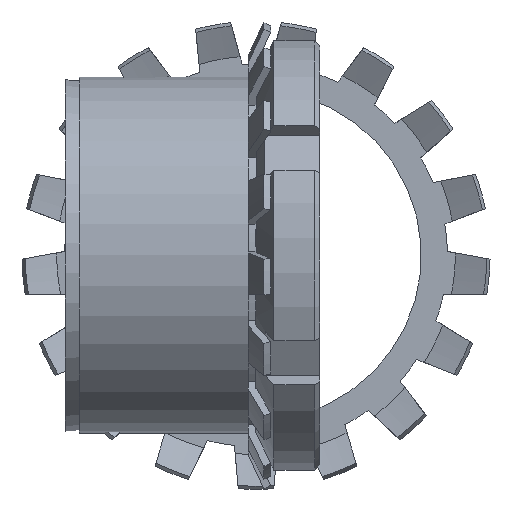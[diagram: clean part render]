
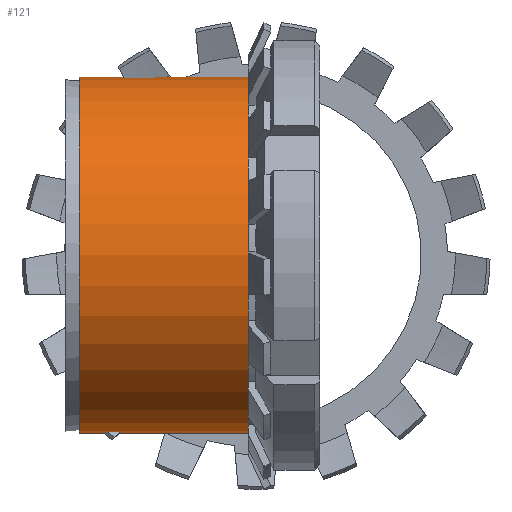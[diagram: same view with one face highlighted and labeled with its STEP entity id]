
A CAD part, left-side view. The second image highlights one B-rep face of the part: STEP entity #121.
In plain terms, the highlighted cylindrical face has radius 35 mm (diameter 70 mm), a full revolution.
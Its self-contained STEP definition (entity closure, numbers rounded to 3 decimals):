
#121 = ADVANCED_FACE( '', ( #255, #256 ), #257, .T. );
#255 = FACE_OUTER_BOUND( '', #413, .T. );
#256 = FACE_OUTER_BOUND( '', #414, .T. );
#257 = CYLINDRICAL_SURFACE( '', #415, 35. );
#413 = EDGE_LOOP( '', ( #782 ) );
#414 = EDGE_LOOP( '', ( #783 ) );
#415 = AXIS2_PLACEMENT_3D( '', #784, #785, #786 );
#782 = ORIENTED_EDGE( '', *, *, #1289, .F. );
#783 = ORIENTED_EDGE( '', *, *, #1347, .T. );
#784 = CARTESIAN_POINT( '', ( 0., -60., 0. ) );
#785 = DIRECTION( '', ( 0., 1., 0. ) );
#786 = DIRECTION( '', ( 0., 0., -1. ) );
#1289 = EDGE_CURVE( '', #1704, #1704, #1705, .T. );
#1347 = EDGE_CURVE( '', #1794, #1794, #1795, .T. );
#1704 = VERTEX_POINT( '', #2994 );
#1705 = CIRCLE( '', #2995, 35. );
#1794 = VERTEX_POINT( '', #3146 );
#1795 = CIRCLE( '', #3147, 35. );
#2994 = CARTESIAN_POINT( '', ( 0., 0., -35. ) );
#2995 = AXIS2_PLACEMENT_3D( '', #3622, #3623, #3624 );
#3146 = CARTESIAN_POINT( '', ( 0., 34.722, -35. ) );
#3147 = AXIS2_PLACEMENT_3D( '', #3675, #3676, #3677 );
#3622 = CARTESIAN_POINT( '', ( 0., 0., 0. ) );
#3623 = DIRECTION( '', ( 0., -1., 0. ) );
#3624 = DIRECTION( '', ( 0., 0., -1. ) );
#3675 = CARTESIAN_POINT( '', ( 0., 34.722, 0. ) );
#3676 = DIRECTION( '', ( 0., -1., 0. ) );
#3677 = DIRECTION( '', ( 0., 0., -1. ) );
